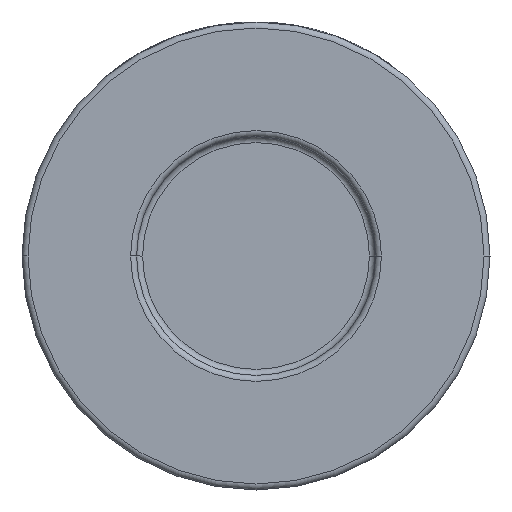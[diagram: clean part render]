
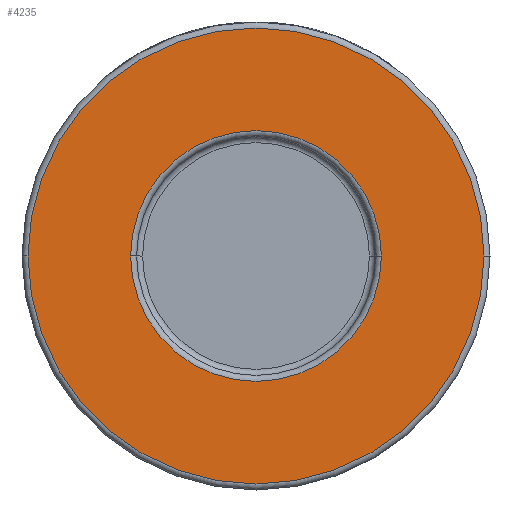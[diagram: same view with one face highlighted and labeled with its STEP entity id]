
A CAD part, front view. The second image highlights one B-rep face of the part: STEP entity #4235.
In plain terms, the highlighted planar face has unit normal (0, -1, 0).
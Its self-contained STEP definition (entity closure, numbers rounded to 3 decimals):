
#351 = DIRECTION ( 'NONE',  ( 0., -1., 0. ) ) ;
#393 = EDGE_LOOP ( 'NONE', ( #2573, #899 ) ) ;
#425 = DIRECTION ( 'NONE',  ( 0., -1., 0. ) ) ;
#534 = EDGE_LOOP ( 'NONE', ( #4008, #4152 ) ) ;
#623 = AXIS2_PLACEMENT_3D ( 'NONE', #1786, #1349, #3227 ) ;
#768 = CARTESIAN_POINT ( 'NONE',  ( 0., -26., 0. ) ) ;
#899 = ORIENTED_EDGE ( 'NONE', *, *, #1240, .T. ) ;
#1054 = DIRECTION ( 'NONE',  ( 1., 0., 0. ) ) ;
#1155 = AXIS2_PLACEMENT_3D ( 'NONE', #2156, #2201, #1453 ) ;
#1207 = CARTESIAN_POINT ( 'NONE',  ( 20.9, -26., 0. ) ) ;
#1240 = EDGE_CURVE ( 'NONE', #1413, #2789, #3195, .T. ) ;
#1349 = DIRECTION ( 'NONE',  ( 0., -1., 0. ) ) ;
#1372 = DIRECTION ( 'NONE',  ( 1., 0., 0. ) ) ;
#1398 = FACE_BOUND ( 'NONE', #393, .T. ) ;
#1404 = EDGE_CURVE ( 'NONE', #2630, #4441, #2525, .T. ) ;
#1413 = VERTEX_POINT ( 'NONE', #3574 ) ;
#1453 = DIRECTION ( 'NONE',  ( 1., 0., 0. ) ) ;
#1562 = CARTESIAN_POINT ( 'NONE',  ( 38., -26., 0. ) ) ;
#1786 = CARTESIAN_POINT ( 'NONE',  ( 39., -26., 0. ) ) ;
#1861 = AXIS2_PLACEMENT_3D ( 'NONE', #2344, #3772, #3096 ) ;
#1874 = AXIS2_PLACEMENT_3D ( 'NONE', #2127, #351, #1372 ) ;
#2127 = CARTESIAN_POINT ( 'NONE',  ( 0., -26., 0. ) ) ;
#2156 = CARTESIAN_POINT ( 'NONE',  ( 0., -26., 0. ) ) ;
#2201 = DIRECTION ( 'NONE',  ( 0., 1., 0. ) ) ;
#2344 = CARTESIAN_POINT ( 'NONE',  ( 0., -26., 0. ) ) ;
#2525 = CIRCLE ( 'NONE', #4093, 38. ) ;
#2573 = ORIENTED_EDGE ( 'NONE', *, *, #3092, .T. ) ;
#2630 = VERTEX_POINT ( 'NONE', #1562 ) ;
#2789 = VERTEX_POINT ( 'NONE', #1207 ) ;
#2865 = CIRCLE ( 'NONE', #1874, 38. ) ;
#3092 = EDGE_CURVE ( 'NONE', #2789, #1413, #3299, .T. ) ;
#3096 = DIRECTION ( 'NONE',  ( 1., 0., 0. ) ) ;
#3195 = CIRCLE ( 'NONE', #1155, 20.9 ) ;
#3227 = DIRECTION ( 'NONE',  ( 1., 0., 0. ) ) ;
#3299 = CIRCLE ( 'NONE', #1861, 20.9 ) ;
#3574 = CARTESIAN_POINT ( 'NONE',  ( -20.9, -26., 0. ) ) ;
#3585 = FACE_OUTER_BOUND ( 'NONE', #534, .T. ) ;
#3772 = DIRECTION ( 'NONE',  ( 0., 1., 0. ) ) ;
#4008 = ORIENTED_EDGE ( 'NONE', *, *, #1404, .T. ) ;
#4064 = CARTESIAN_POINT ( 'NONE',  ( -38., -26., 0. ) ) ;
#4093 = AXIS2_PLACEMENT_3D ( 'NONE', #768, #425, #1054 ) ;
#4150 = EDGE_CURVE ( 'NONE', #4441, #2630, #2865, .T. ) ;
#4152 = ORIENTED_EDGE ( 'NONE', *, *, #4150, .T. ) ;
#4235 = ADVANCED_FACE ( 'NONE', ( #1398, #3585 ), #4594, .T. ) ;
#4441 = VERTEX_POINT ( 'NONE', #4064 ) ;
#4594 = PLANE ( 'NONE',  #623 ) ;
